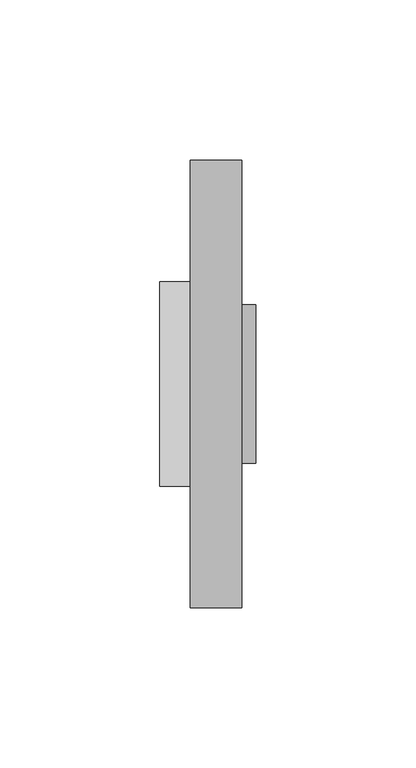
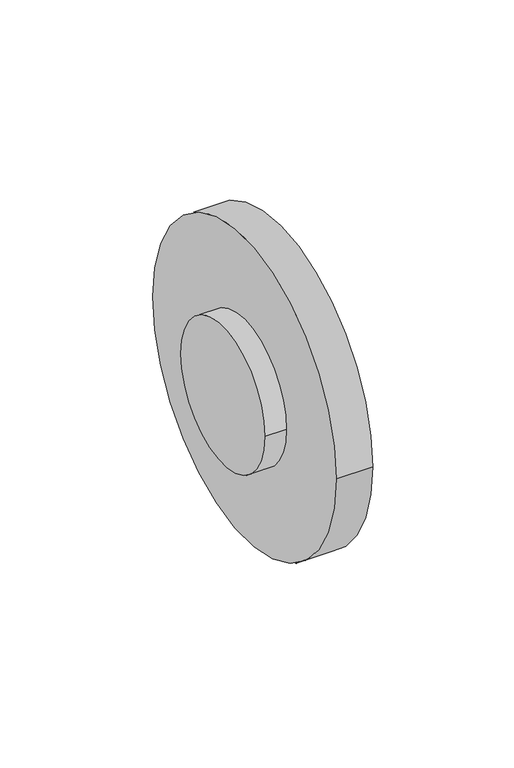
"""IFC4 building model written with IfcOpenShell, lengths in millimetres: pipe fitting geometry, NIRON RED termofusion casquillo con brida : Estándar."""

from ifc_helpers import new_model, si_unit, point, frame, origin, origin_2d, place, context, project, spatial, circle_curve, trimmed, segment, composite_curve, outline, extrude, source, transform, mapped, element, save


def pipe_fitting_331c4a7b(model_context):
    return source(origin(), model_context, "Body", "SweptSolid", [
        extrude(outline(composite_curve([segment(trimmed(circle_curve(origin_2d(), 24.7), [point((24.7, 0.0))], [point((-24.7, 0.0))], False, "CARTESIAN"), True, "CONTINUOUS"), segment(trimmed(circle_curve(origin_2d(), 24.7), [point((-24.7, 0.0))], [point((24.7, 0.0))], False, "CARTESIAN"), True, "CONTINUOUS")], self_intersect=False)), frame((9.5, 0.0, 0.0), z_axis=(1.0, 0.0, 0.0), x_axis=(0.0, 1.0, 0.0)), (0.0, 0.0, 1.0), 20.5),
        extrude(outline(composite_curve([segment(trimmed(circle_curve(origin_2d(), 32.0), [point((-32.0, 0.0))], [point((32.0, 0.0))], False, "CARTESIAN"), True, "CONTINUOUS"), segment(trimmed(circle_curve(origin_2d(), 32.0), [point((32.0, 0.0))], [point((-32.0, 0.0))], False, "CARTESIAN"), True, "CONTINUOUS")], self_intersect=False)), frame((0.0, 0.0, 0.0), z_axis=(1.0, 0.0, 0.0), x_axis=(0.0, 1.0, 0.0)), (0.0, 0.0, 1.0), 9.5),
        extrude(outline(composite_curve([segment(trimmed(circle_curve(origin_2d(), 70.0), [point((70.0, 0.0))], [point((-70.0, 0.0))], False, "CARTESIAN"), True, "CONTINUOUS"), segment(trimmed(circle_curve(origin_2d(), 70.0), [point((-70.0, 0.0))], [point((70.0, 0.0))], False, "CARTESIAN"), True, "CONTINUOUS")], self_intersect=False), holes=[composite_curve([segment(trimmed(circle_curve(origin_2d(), 25.5), [point((25.5, 0.0))], [point((-25.5, 0.0))], True, "CARTESIAN"), True, "CONTINUOUS"), segment(trimmed(circle_curve(origin_2d(), 25.5), [point((-25.5, 0.0))], [point((25.5, 0.0))], True, "CARTESIAN"), True, "CONTINUOUS")], self_intersect=False)]), frame((9.5, 0.0, 0.0), z_axis=(1.0, 0.0, 0.0), x_axis=(0.0, 1.0, 0.0)), (0.0, 0.0, 1.0), 16.0),
    ])


if __name__ == "__main__":
    model = new_model("IFC4")
    model_context = context("Model", 3, world=origin())
    ifc_project = project(units=[si_unit("LENGTHUNIT", "METRE", prefix="MILLI")], contexts=[model_context])
    site = spatial("IfcSite", under=ifc_project)
    building = spatial("IfcBuilding", under=site)
    placement = place(None, origin())
    pipe_fitting_shape = pipe_fitting_331c4a7b(model_context)
    element("IfcPipeFitting", 1, ObjectType="NIRON RED termofusion casquillo con brida : Estándar", at=placement, inside=building, context=model_context, shape_type="MappedRepresentation", body=[
        mapped(pipe_fitting_shape, transform((0.0, 0.0, 0.0), x_axis=(1.0, 0.0, 0.0), y_axis=(0.0, 1.0, 0.0), z_axis=(0.0, 0.0, 1.0))),
    ])
    save(model, "model.ifc")
